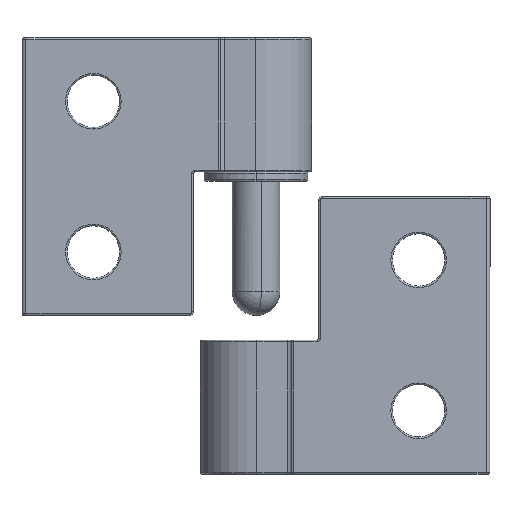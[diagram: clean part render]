
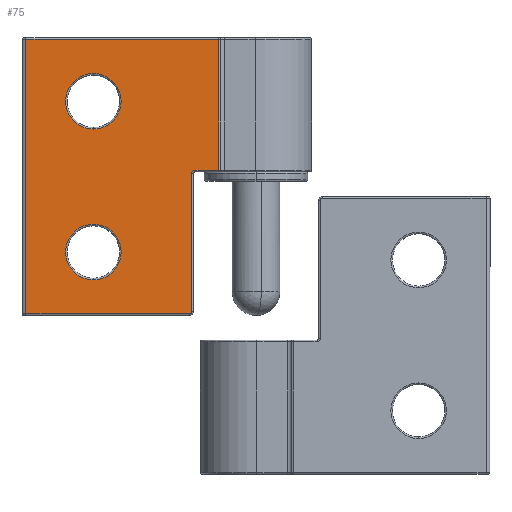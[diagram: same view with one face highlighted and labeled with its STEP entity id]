
A CAD part, front view. The second image highlights one B-rep face of the part: STEP entity #75.
In plain terms, the highlighted planar face has unit normal (0, -1, 0).
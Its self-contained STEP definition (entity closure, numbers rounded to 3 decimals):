
#75 = ADVANCED_FACE ( 'NONE', ( #9765, #6995, #9600 ), #2092, .F. ) ;
#152 = CARTESIAN_POINT ( 'NONE',  ( -4.693, -8.4, 0.8 ) ) ;
#473 = LINE ( 'NONE', #10644, #2618 ) ;
#665 = CIRCLE ( 'NONE', #7257, 3.5 ) ;
#737 = EDGE_CURVE ( 'NONE', #10288, #8660, #3854, .T. ) ;
#830 = VERTEX_POINT ( 'NONE', #1629 ) ;
#1277 = VECTOR ( 'NONE', #7596, 1000. ) ;
#1310 = DIRECTION ( 'NONE',  ( 0., 0., 1. ) ) ;
#1503 = CARTESIAN_POINT ( 'NONE',  ( -20.5, -8.4, -9.5 ) ) ;
#1520 = CARTESIAN_POINT ( 'NONE',  ( -20.5, -8.4, 9.5 ) ) ;
#1552 = ORIENTED_EDGE ( 'NONE', *, *, #12424, .T. ) ;
#1583 = VERTEX_POINT ( 'NONE', #7468 ) ;
#1604 = EDGE_CURVE ( 'NONE', #8105, #10288, #11251, .T. ) ;
#1629 = CARTESIAN_POINT ( 'NONE',  ( -8.1, -8.4, -17. ) ) ;
#1973 = ORIENTED_EDGE ( 'NONE', *, *, #4043, .T. ) ;
#2092 = PLANE ( 'NONE',  #4194 ) ;
#2233 = CIRCLE ( 'NONE', #7797, 3.5 ) ;
#2234 = CARTESIAN_POINT ( 'NONE',  ( -20.5, -8.4, 13. ) ) ;
#2264 = CARTESIAN_POINT ( 'NONE',  ( -4.693, -8.4, 17.5 ) ) ;
#2407 = VECTOR ( 'NONE', #8814, 1000. ) ;
#2618 = VECTOR ( 'NONE', #6233, 1000. ) ;
#2656 = ORIENTED_EDGE ( 'NONE', *, *, #737, .T. ) ;
#2814 = VERTEX_POINT ( 'NONE', #4060 ) ;
#2926 = LINE ( 'NONE', #4551, #2407 ) ;
#3066 = ORIENTED_EDGE ( 'NONE', *, *, #6082, .T. ) ;
#3418 = CARTESIAN_POINT ( 'NONE',  ( -8.1, -8.4, 17.5 ) ) ;
#3513 = CARTESIAN_POINT ( 'NONE',  ( -7.7, -8.4, 0.4 ) ) ;
#3538 = CIRCLE ( 'NONE', #4574, 3.5 ) ;
#3582 = ORIENTED_EDGE ( 'NONE', *, *, #12189, .T. ) ;
#3854 = LINE ( 'NONE', #13004, #10582 ) ;
#3933 = EDGE_CURVE ( 'NONE', #8903, #11493, #10524, .T. ) ;
#4043 = EDGE_CURVE ( 'NONE', #13638, #4266, #665, .T. ) ;
#4060 = CARTESIAN_POINT ( 'NONE',  ( -20.5, -8.4, -6. ) ) ;
#4194 = AXIS2_PLACEMENT_3D ( 'NONE', #11656, #11558, #8482 ) ;
#4266 = VERTEX_POINT ( 'NONE', #12671 ) ;
#4385 = DIRECTION ( 'NONE',  ( 0., -1., 0. ) ) ;
#4551 = CARTESIAN_POINT ( 'NONE',  ( -29., -8.4, -17.5 ) ) ;
#4574 = AXIS2_PLACEMENT_3D ( 'NONE', #1520, #6863, #5761 ) ;
#4575 = LINE ( 'NONE', #9382, #5235 ) ;
#5054 = EDGE_CURVE ( 'NONE', #5625, #13407, #473, .T. ) ;
#5235 = VECTOR ( 'NONE', #5345, 1000. ) ;
#5345 = DIRECTION ( 'NONE',  ( 1., 0., 0. ) ) ;
#5625 = VERTEX_POINT ( 'NONE', #13277 ) ;
#5737 = DIRECTION ( 'NONE',  ( 0., 0., 1. ) ) ;
#5761 = DIRECTION ( 'NONE',  ( 0., 0., 1. ) ) ;
#5813 = DIRECTION ( 'NONE',  ( 0., 0., 1. ) ) ;
#5961 = DIRECTION ( 'NONE',  ( 0., 0., 1. ) ) ;
#6079 = CARTESIAN_POINT ( 'NONE',  ( -8.1, -8.4, 0.4 ) ) ;
#6082 = EDGE_CURVE ( 'NONE', #2814, #1583, #12812, .T. ) ;
#6233 = DIRECTION ( 'NONE',  ( 1., 0., 0. ) ) ;
#6277 = EDGE_LOOP ( 'NONE', ( #1973, #6552 ) ) ;
#6520 = CIRCLE ( 'NONE', #10014, 0.3 ) ;
#6552 = ORIENTED_EDGE ( 'NONE', *, *, #13459, .T. ) ;
#6741 = DIRECTION ( 'NONE',  ( -1., 0., 0. ) ) ;
#6768 = ORIENTED_EDGE ( 'NONE', *, *, #10416, .T. ) ;
#6863 = DIRECTION ( 'NONE',  ( 0., 1., 0. ) ) ;
#6898 = EDGE_LOOP ( 'NONE', ( #3066, #3582 ) ) ;
#6995 = FACE_BOUND ( 'NONE', #6277, .T. ) ;
#7257 = AXIS2_PLACEMENT_3D ( 'NONE', #12125, #10910, #5813 ) ;
#7468 = CARTESIAN_POINT ( 'NONE',  ( -20.5, -8.4, -13. ) ) ;
#7575 = CARTESIAN_POINT ( 'NONE',  ( -29., -8.4, 17.3 ) ) ;
#7596 = DIRECTION ( 'NONE',  ( 0., 0., 1. ) ) ;
#7797 = AXIS2_PLACEMENT_3D ( 'NONE', #9669, #10652, #1310 ) ;
#8105 = VERTEX_POINT ( 'NONE', #152 ) ;
#8268 = ORIENTED_EDGE ( 'NONE', *, *, #11241, .T. ) ;
#8302 = AXIS2_PLACEMENT_3D ( 'NONE', #3513, #4385, #12957 ) ;
#8309 = ORIENTED_EDGE ( 'NONE', *, *, #3933, .F. ) ;
#8482 = DIRECTION ( 'NONE',  ( 0., 0., 1. ) ) ;
#8660 = VERTEX_POINT ( 'NONE', #7575 ) ;
#8814 = DIRECTION ( 'NONE',  ( 0., 0., 1. ) ) ;
#8846 = DIRECTION ( 'NONE',  ( 0., 1., 0. ) ) ;
#8903 = VERTEX_POINT ( 'NONE', #13262 ) ;
#9382 = CARTESIAN_POINT ( 'NONE',  ( -29.5, -8.4, 0.8 ) ) ;
#9503 = EDGE_LOOP ( 'NONE', ( #6768, #9816, #2656, #9728, #13421, #1552, #8268, #8309 ) ) ;
#9600 = FACE_OUTER_BOUND ( 'NONE', #9503, .T. ) ;
#9669 = CARTESIAN_POINT ( 'NONE',  ( -20.5, -8.4, -9.5 ) ) ;
#9728 = ORIENTED_EDGE ( 'NONE', *, *, #11756, .F. ) ;
#9765 = FACE_BOUND ( 'NONE', #6898, .T. ) ;
#9816 = ORIENTED_EDGE ( 'NONE', *, *, #1604, .T. ) ;
#10004 = DIRECTION ( 'NONE',  ( 0., -1., 0. ) ) ;
#10014 = AXIS2_PLACEMENT_3D ( 'NONE', #12276, #10004, #5961 ) ;
#10222 = CARTESIAN_POINT ( 'NONE',  ( -4.693, -8.4, 17.3 ) ) ;
#10288 = VERTEX_POINT ( 'NONE', #10222 ) ;
#10416 = EDGE_CURVE ( 'NONE', #8903, #8105, #4575, .T. ) ;
#10524 = CIRCLE ( 'NONE', #8302, 0.4 ) ;
#10582 = VECTOR ( 'NONE', #6741, 1000. ) ;
#10644 = CARTESIAN_POINT ( 'NONE',  ( -8.4, -8.4, -17.3 ) ) ;
#10652 = DIRECTION ( 'NONE',  ( 0., 1., 0. ) ) ;
#10777 = DIRECTION ( 'NONE',  ( 0., 0., 1. ) ) ;
#10910 = DIRECTION ( 'NONE',  ( 0., 1., 0. ) ) ;
#11241 = EDGE_CURVE ( 'NONE', #830, #11493, #12984, .T. ) ;
#11251 = LINE ( 'NONE', #2264, #11726 ) ;
#11493 = VERTEX_POINT ( 'NONE', #6079 ) ;
#11558 = DIRECTION ( 'NONE',  ( 0., 1., 0. ) ) ;
#11656 = CARTESIAN_POINT ( 'NONE',  ( -29.5, -8.4, 17.5 ) ) ;
#11726 = VECTOR ( 'NONE', #10777, 1000. ) ;
#11756 = EDGE_CURVE ( 'NONE', #5625, #8660, #2926, .T. ) ;
#11916 = CARTESIAN_POINT ( 'NONE',  ( -8.4, -8.4, -17.3 ) ) ;
#12125 = CARTESIAN_POINT ( 'NONE',  ( -20.5, -8.4, 9.5 ) ) ;
#12189 = EDGE_CURVE ( 'NONE', #1583, #2814, #2233, .T. ) ;
#12276 = CARTESIAN_POINT ( 'NONE',  ( -8.4, -8.4, -17. ) ) ;
#12311 = AXIS2_PLACEMENT_3D ( 'NONE', #1503, #8846, #5737 ) ;
#12424 = EDGE_CURVE ( 'NONE', #13407, #830, #6520, .T. ) ;
#12671 = CARTESIAN_POINT ( 'NONE',  ( -20.5, -8.4, 6. ) ) ;
#12812 = CIRCLE ( 'NONE', #12311, 3.5 ) ;
#12957 = DIRECTION ( 'NONE',  ( 0., 0., 1. ) ) ;
#12984 = LINE ( 'NONE', #3418, #1277 ) ;
#13004 = CARTESIAN_POINT ( 'NONE',  ( -29.5, -8.4, 17.3 ) ) ;
#13262 = CARTESIAN_POINT ( 'NONE',  ( -7.7, -8.4, 0.8 ) ) ;
#13277 = CARTESIAN_POINT ( 'NONE',  ( -29., -8.4, -17.3 ) ) ;
#13407 = VERTEX_POINT ( 'NONE', #11916 ) ;
#13421 = ORIENTED_EDGE ( 'NONE', *, *, #5054, .T. ) ;
#13459 = EDGE_CURVE ( 'NONE', #4266, #13638, #3538, .T. ) ;
#13638 = VERTEX_POINT ( 'NONE', #2234 ) ;
